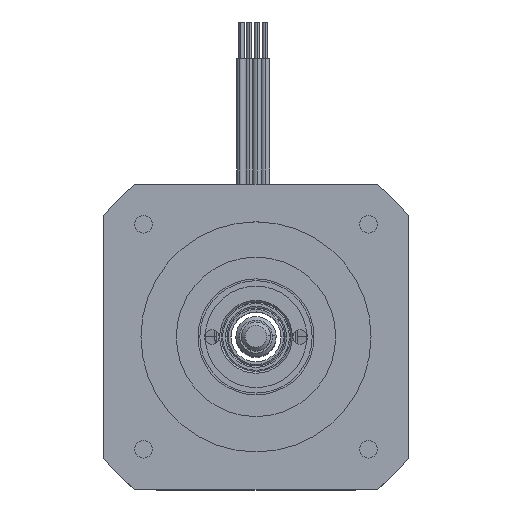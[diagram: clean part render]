
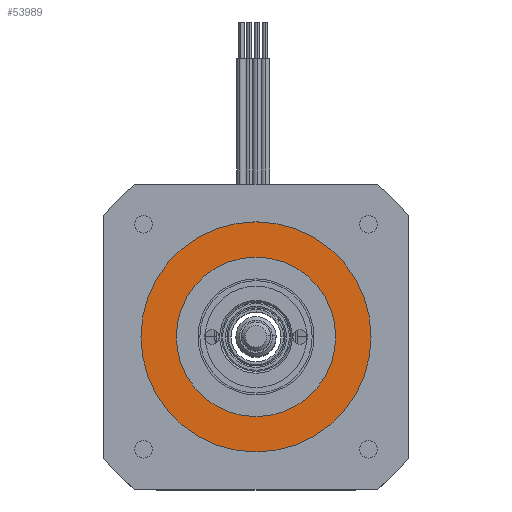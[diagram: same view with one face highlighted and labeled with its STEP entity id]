
A CAD part, top view. The second image highlights one B-rep face of the part: STEP entity #53989.
In plain terms, the highlighted planar face has unit normal (0, 0, 1).
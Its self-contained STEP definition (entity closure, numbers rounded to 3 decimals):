
#11126 = CARTESIAN_POINT ( 'NONE',  ( -1.299, 1.299, 16.882 ) ) ;
#11133 = DIRECTION ( 'NONE',  ( 0., 0., 1. ) ) ;
#11134 = DIRECTION ( 'NONE',  ( 1., 0., 0. ) ) ;
#11147 = CARTESIAN_POINT ( 'NONE',  ( -1.299, 1.299, 16.882 ) ) ;
#11148 = DIRECTION ( 'NONE',  ( 0., 0., 1. ) ) ;
#11149 = DIRECTION ( 'NONE',  ( 1., 0., 0. ) ) ;
#11234 = CARTESIAN_POINT ( 'NONE',  ( -1.299, 1.299, 16.882 ) ) ;
#11235 = DIRECTION ( 'NONE',  ( 0., 0., 1. ) ) ;
#11236 = DIRECTION ( 'NONE',  ( 1., 0., 0. ) ) ;
#11237 = CARTESIAN_POINT ( 'NONE',  ( -1.299, 1.299, 16.882 ) ) ;
#11238 = DIRECTION ( 'NONE',  ( 0., 0., 1. ) ) ;
#11239 = DIRECTION ( 'NONE',  ( 1., 0., 0. ) ) ;
#13094 = VERTEX_POINT ( 'NONE', #38299 ) ;
#13095 = VERTEX_POINT ( 'NONE', #38302 ) ;
#13101 = VERTEX_POINT ( 'NONE', #38319 ) ;
#13102 = VERTEX_POINT ( 'NONE', #38321 ) ;
#16796 = FACE_BOUND ( 'NONE', #56883, .T. ) ;
#16799 = FACE_OUTER_BOUND ( 'NONE', #56789, .T. ) ;
#16802 = AXIS2_PLACEMENT_3D ( 'NONE', #43837, #43838, #43839 ) ;
#17848 = EDGE_CURVE ( 'NONE', #13094, #13095, #51305, .T. ) ;
#17853 = EDGE_CURVE ( 'NONE', #13101, #13102, #51312, .T. ) ;
#17882 = EDGE_CURVE ( 'NONE', #13102, #13101, #51353, .T. ) ;
#17883 = EDGE_CURVE ( 'NONE', #13095, #13094, #51355, .T. ) ;
#38299 = CARTESIAN_POINT ( 'NONE',  ( -17.174, 1.299, 16.882 ) ) ;
#38302 = CARTESIAN_POINT ( 'NONE',  ( 14.576, 1.299, 16.882 ) ) ;
#38319 = CARTESIAN_POINT ( 'NONE',  ( 9.701, 1.299, 16.882 ) ) ;
#38321 = CARTESIAN_POINT ( 'NONE',  ( -12.299, 1.299, 16.882 ) ) ;
#41822 = ORIENTED_EDGE ( 'NONE', *, *, #17882, .F. ) ;
#41824 = ORIENTED_EDGE ( 'NONE', *, *, #17853, .F. ) ;
#41826 = ORIENTED_EDGE ( 'NONE', *, *, #17883, .T. ) ;
#41830 = ORIENTED_EDGE ( 'NONE', *, *, #17848, .T. ) ;
#42724 = AXIS2_PLACEMENT_3D ( 'NONE', #11126, #11133, #11134 ) ;
#42739 = AXIS2_PLACEMENT_3D ( 'NONE', #11147, #11148, #11149 ) ;
#43836 = PLANE ( 'NONE',  #16802 ) ;
#43837 = CARTESIAN_POINT ( 'NONE',  ( -1.299, 1.299, 16.882 ) ) ;
#43838 = DIRECTION ( 'NONE',  ( 0., 0., 1. ) ) ;
#43839 = DIRECTION ( 'NONE',  ( 1., 0., 0. ) ) ;
#51305 = CIRCLE ( 'NONE', #42724, 15.875 ) ;
#51312 = CIRCLE ( 'NONE', #42739, 11. ) ;
#51353 = CIRCLE ( 'NONE', #62218, 11. ) ;
#51355 = CIRCLE ( 'NONE', #62219, 15.875 ) ;
#53989 = ADVANCED_FACE ( 'NONE', ( #16796, #16799 ), #43836, .T. ) ;
#56789 = EDGE_LOOP ( 'NONE', ( #41826, #41830 ) ) ;
#56883 = EDGE_LOOP ( 'NONE', ( #41822, #41824 ) ) ;
#62218 = AXIS2_PLACEMENT_3D ( 'NONE', #11234, #11235, #11236 ) ;
#62219 = AXIS2_PLACEMENT_3D ( 'NONE', #11237, #11238, #11239 ) ;
